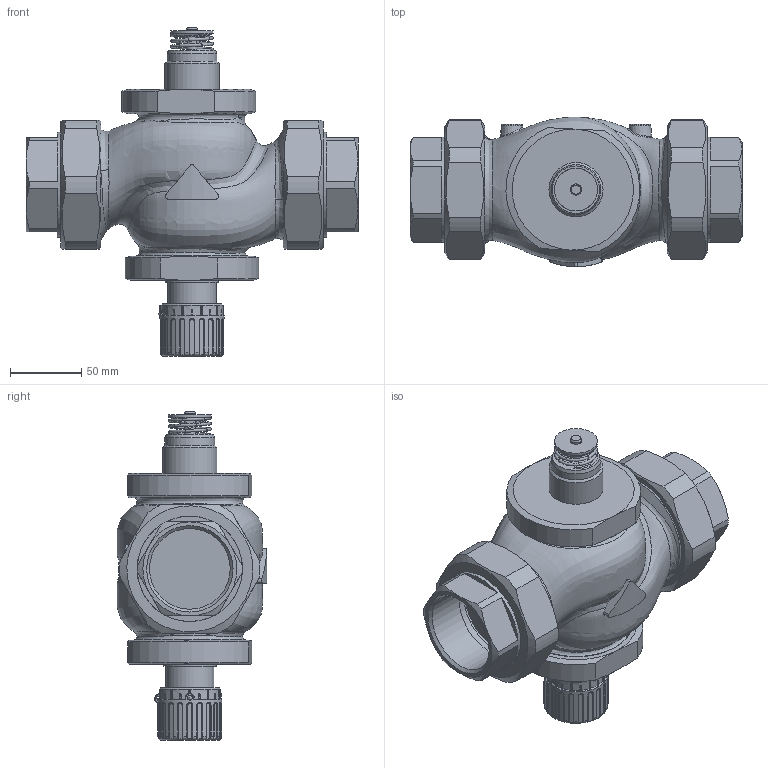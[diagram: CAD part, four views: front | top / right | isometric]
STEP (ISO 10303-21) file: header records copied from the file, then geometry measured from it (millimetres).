
FILE_DESCRIPTION(/* description */ (''),/* implementation_level */ '2;1');
FILE_NAME(/* name */ 'rv122p_dn50_T.stp',/* time_stamp */ '2012-11-05T15:09:12+01:00',/* author */ ('JENIK'),/* organization */ ('LDM'),/* preprocessor_version */ 'ST-DEVELOPER v11',/* originating_system */ 'SIEMENS PLM Software NX 7.0',/* authorisation */ '');
FILE_SCHEMA (('CONFIG_CONTROL_DESIGN'));
Length unit declared in the file: millimetre
Products named in the file (1): jeniA85B0dl7
Bounding box: 233 x 104.99 x 230.8 mm (x, y, z)
Volume: 227204.9 mm3; surface area: 181180.2 mm2
Topology: 6 solids, 7 shells, 593 faces, 1466 edges, 905 vertices
Faces by surface type: cylinder 208, plane 173, bspline 96, torus 70, cone 45, sphere 1
Full cylindrical faces by diameter (mm): 2 x1, 2.5 x1, 8 x2, 24.5 x1, 30 x1, 33.8 x1, 35 x1, 37 x1, 38 x1, 43 x1, 56.655 x2, 60 x4, 73.8 x2, 74 x2, 77 x2, 77.8 x2, 78.576 x2, 81.534 x2
Entity records: 31553 total; most frequent: CARTESIAN_POINT 18808, ORIENTED_EDGE 2696, DIRECTION 2450, EDGE_CURVE 1348, AXIS2_PLACEMENT_3D 1023, VERTEX_POINT 866, EDGE_LOOP 708, ADVANCED_FACE 593
